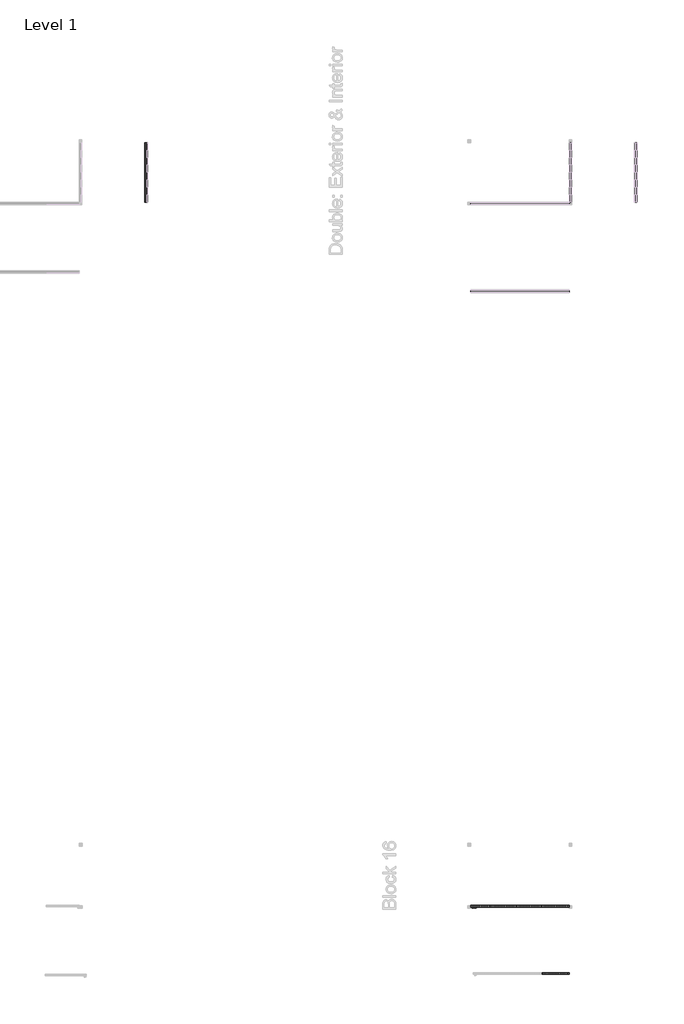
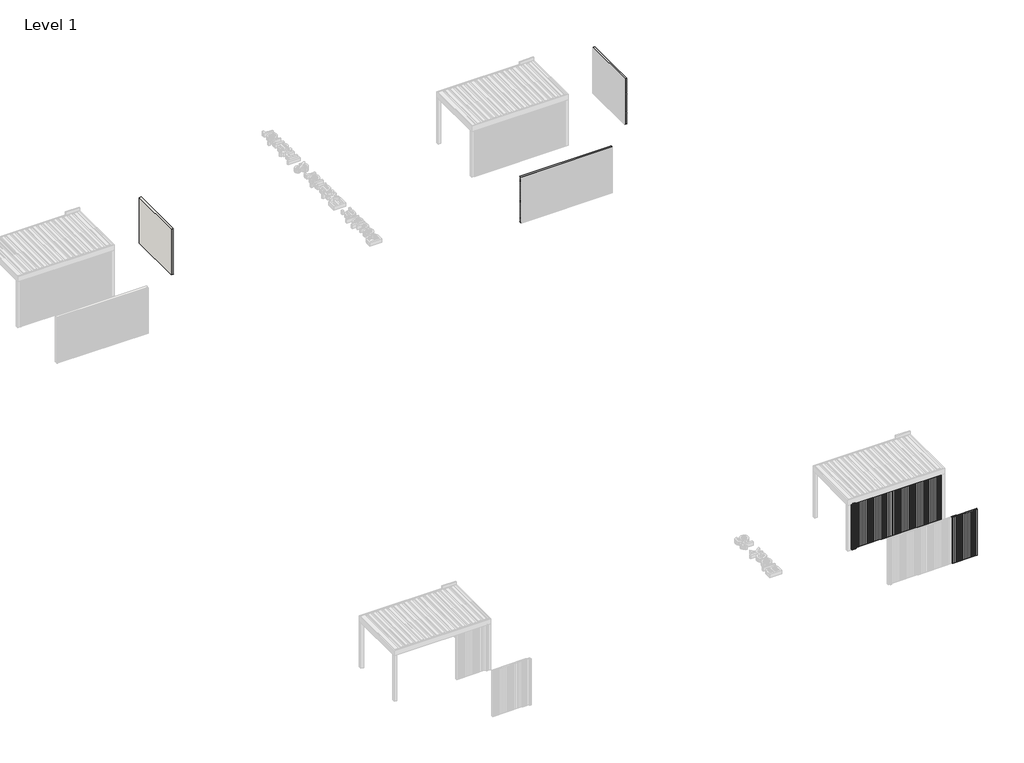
# One storey, part 3 of 47: 86 plates, 3 members, 1 wall.
"""IFC4 building model written with IfcOpenShell, lengths in millimetres."""

from ifc_helpers import new_model, si_unit, origin, origin_with_axes, place, context, project, spatial, polyline, outline, extrude, faceted_brep, transform, mapped, element, save
from components import rectangular_mullion_72b57f38

model = new_model("IFC4")

# Units and contexts
model_context = context("Model", 3, world=origin())
ifc_project = project(units=[si_unit("LENGTHUNIT", "METRE", prefix="MILLI")], contexts=[model_context])

# Site, building, storey
site = spatial("IfcSite", under=ifc_project)
building = spatial("IfcBuilding", under=site)
storey = spatial("IfcBuildingStorey", under=building, Name="Level 1", Elevation=0.0)

# Members
placement = place(None, origin())
rectangular_mullion_shape = rectangular_mullion_72b57f38(model_context)
element("IfcMember", 1, ObjectType="Rectangular Mullion : Renson_Linarte_LA-B16-01", at=placement, inside=storey, context=model_context, shape_type="MappedRepresentation", body=[
    mapped(rectangular_mullion_shape, transform((205462.4238388, 12603.7325968, 0.0), x_axis=(1.0, 0.0, 0.0), y_axis=(0.0, -1.0, 0.0), z_axis=(0.0, 0.0, -1.0))),
])
element("IfcMember", 2, ObjectType="Rectangular Mullion : Renson_Linarte_LA-B16-01", at=placement, inside=storey, context=model_context, shape_type="MappedRepresentation", body=[
    mapped(rectangular_mullion_shape, transform((205402.4238388, 12603.7325968, 0.0), x_axis=(1.0, 0.0, 0.0), y_axis=(0.0, -1.0, 0.0), z_axis=(0.0, 0.0, -1.0))),
])
element("IfcMember", 3, ObjectType="Rectangular Mullion : Renson_Linarte_LA-B16-01", at=placement, inside=storey, context=model_context, shape_type="MappedRepresentation", body=[
    mapped(rectangular_mullion_shape, transform((205342.4238388, 12603.7325968, 0.0), x_axis=(1.0, 0.0, 0.0), y_axis=(0.0, -1.0, 0.0), z_axis=(0.0, 0.0, -1.0))),
])

# Plates
element("IfcPlate", 4, ObjectType="Linius - L.033.01_Renson_double", at=placement, inside=storey, context=model_context, shape_type="Brep", body=[
    faceted_brep([(209062.4238385, 36245.4292826, 0.0), (205282.4238385, 36245.4292826, 0.0), (205282.4238385, 36245.4292826, 1951.0345698), (205282.4238385, 36245.4292826, 1964.7), (205282.4238385, 36245.4292826, 2000.0), (209062.4238385, 36245.4292826, 2000.0), (209062.4238385, 36245.4292826, 1964.7), (209062.4238385, 36245.4292826, 1951.0345698), (209062.4238385, 36178.2292826, 0.0), (209062.4238385, 36178.2292826, 2000.0), (205282.4238385, 36178.2292826, 2000.0), (205282.4238385, 36178.2292826, 0.0)], [[[0, 1, 2, 3, 4, 5, 6, 7]], [[8, 9, 10, 11]], [[1, 0, 8, 11]], [[4, 3, 2, 1, 11, 10]], [[5, 4, 10, 9]], [[0, 7, 6, 5, 9, 8]]]),
])
element("IfcPlate", 5, ObjectType="Linius - L.033.01_Renson_double", at=placement, inside=storey, context=model_context, shape_type="Brep", body=[
    faceted_brep([(211595.7971432, 41912.1593685, 0.0), (211595.7971432, 39632.1593685, 0.0), (211595.7971432, 39632.1593685, 1951.0345698), (211595.7971432, 39632.1593685, 1964.7), (211595.7971432, 39632.1593685, 2000.0), (211595.7971432, 41912.1593685, 2000.0), (211595.7971432, 41912.1593685, 1964.7), (211595.7971432, 41912.1593685, 1951.0345698), (211662.9971432, 41912.1593685, 0.0), (211662.9971432, 41912.1593685, 2000.0), (211662.9971432, 39632.1593685, 2000.0), (211662.9971432, 39632.1593685, 0.0)], [[[0, 1, 2, 3, 4, 5, 6, 7]], [[8, 9, 10, 11]], [[1, 0, 8, 11]], [[4, 3, 2, 1, 11, 10]], [[5, 4, 10, 9]], [[0, 7, 6, 5, 9, 8]]]),
])
element("IfcPlate", 6, ObjectType="Linius - L.033.01_Renson_double", at=placement, inside=storey, context=model_context, shape_type="Brep", body=[
    faceted_brep([(209083.8238385, 41912.1593685, 0.0), (209083.8238385, 39632.1593685, 0.0), (209083.8238385, 39632.1593685, 1951.0345698), (209083.8238385, 39632.1593685, 1964.7), (209083.8238385, 39632.1593685, 2000.0), (209083.8238385, 41912.1593685, 2000.0), (209083.8238385, 41912.1593685, 1964.7), (209083.8238385, 41912.1593685, 1951.0345698), (209151.0238385, 41912.1593685, 0.0), (209151.0238385, 41912.1593685, 2000.0), (209151.0238385, 39632.1593685, 2000.0), (209151.0238385, 39632.1593685, 0.0)], [[[0, 1, 2, 3, 4, 5, 6, 7]], [[8, 9, 10, 11]], [[1, 0, 8, 11]], [[4, 3, 2, 1, 11, 10]], [[5, 4, 10, 9]], [[0, 7, 6, 5, 9, 8]]]),
])
element("IfcPlate", 7, ObjectType="Linius - L.033.01_Renson_double", at=placement, inside=storey, context=model_context, shape_type="Brep", body=[
    faceted_brep([(209062.4238385, 39610.7593685, 0.0), (205282.4238385, 39610.7593685, 0.0), (205282.4238385, 39610.7593685, 1951.0345698), (205282.4238385, 39610.7593685, 1964.7), (205282.4238385, 39610.7593685, 2000.0), (209062.4238385, 39610.7593685, 2000.0), (209062.4238385, 39610.7593685, 1964.7), (209062.4238385, 39610.7593685, 1951.0345698), (209062.4238385, 39543.5593685, 0.0), (209062.4238385, 39543.5593685, 2000.0), (205282.4238385, 39543.5593685, 2000.0), (205282.4238385, 39543.5593685, 0.0)], [[[0, 1, 2, 3, 4, 5, 6, 7]], [[8, 9, 10, 11]], [[1, 0, 8, 11]], [[4, 3, 2, 1, 11, 10]], [[5, 4, 10, 9]], [[0, 7, 6, 5, 9, 8]]]),
])
element("IfcPlate", 8, ObjectType="Base - 64mm", at=placement, inside=storey, context=model_context, shape_type="SweptSolid", body=[
    extrude(outline(polyline([(209076.9839542, 9986.9412859), (209036.9839545, 9986.9412859), (209036.9839545, 10050.9412859), (209076.9839542, 10050.9412859), (209076.9839542, 9986.9412859)])), origin_with_axes(), (0.0, 0.0, 1.0), 2000.0),
])
element("IfcPlate", 9, ObjectType="Base - 64mm", at=placement, inside=storey, context=model_context, shape_type="SweptSolid", body=[
    extrude(outline(polyline([(209036.9839545, 9986.9412859), (208976.9839545, 9986.9412859), (208976.9839545, 10050.9412859), (209036.9839545, 10050.9412859), (209036.9839545, 9986.9412859)])), origin_with_axes(), (0.0, 0.0, 1.0), 2000.0),
])
element("IfcPlate", 10, ObjectType="Base - 64mm", at=placement, inside=storey, context=model_context, shape_type="SweptSolid", body=[
    extrude(outline(polyline([(208976.9839545, 9986.9412859), (208916.9839545, 9986.9412859), (208916.9839545, 10050.9412859), (208976.9839545, 10050.9412859), (208976.9839545, 9986.9412859)])), origin_with_axes(), (0.0, 0.0, 1.0), 2000.0),
])
element("IfcPlate", 11, ObjectType="Base - 64mm", at=placement, inside=storey, context=model_context, shape_type="SweptSolid", body=[
    extrude(outline(polyline([(208916.9839545, 9986.9412859), (208856.9839545, 9986.9412859), (208856.9839545, 10050.9412859), (208916.9839545, 10050.9412859), (208916.9839545, 9986.9412859)])), origin_with_axes(), (0.0, 0.0, 1.0), 2000.0),
])
element("IfcPlate", 12, ObjectType="Base - 64mm", at=placement, inside=storey, context=model_context, shape_type="SweptSolid", body=[
    extrude(outline(polyline([(208856.9839545, 9986.9412859), (208796.9839545, 9986.9412859), (208796.9839545, 10050.9412859), (208856.9839545, 10050.9412859), (208856.9839545, 9986.9412859)])), origin_with_axes(), (0.0, 0.0, 1.0), 2000.0),
])
element("IfcPlate", 13, ObjectType="Base - 64mm", at=placement, inside=storey, context=model_context, shape_type="SweptSolid", body=[
    extrude(outline(polyline([(208796.9839545, 9986.9412859), (208736.9839545, 9986.9412859), (208736.9839545, 10050.9412859), (208796.9839545, 10050.9412859), (208796.9839545, 9986.9412859)])), origin_with_axes(), (0.0, 0.0, 1.0), 2000.0),
])
element("IfcPlate", 14, ObjectType="Base - 64mm", at=placement, inside=storey, context=model_context, shape_type="SweptSolid", body=[
    extrude(outline(polyline([(208736.9839545, 9986.9412859), (208676.9839545, 9986.9412859), (208676.9839545, 10050.9412859), (208736.9839545, 10050.9412859), (208736.9839545, 9986.9412859)])), origin_with_axes(), (0.0, 0.0, 1.0), 2000.0),
])
element("IfcPlate", 15, ObjectType="Base - 64mm", at=placement, inside=storey, context=model_context, shape_type="SweptSolid", body=[
    extrude(outline(polyline([(208676.9839545, 9986.9412859), (208616.9839545, 9986.9412859), (208616.9839545, 10050.9412859), (208676.9839545, 10050.9412859), (208676.9839545, 9986.9412859)])), origin_with_axes(), (0.0, 0.0, 1.0), 2000.0),
])
element("IfcPlate", 16, ObjectType="Base - 64mm", at=placement, inside=storey, context=model_context, shape_type="SweptSolid", body=[
    extrude(outline(polyline([(208616.9839545, 9986.9412859), (208556.9839545, 9986.9412859), (208556.9839545, 10050.9412859), (208616.9839545, 10050.9412859), (208616.9839545, 9986.9412859)])), origin_with_axes(), (0.0, 0.0, 1.0), 2000.0),
])
element("IfcPlate", 17, ObjectType="Base - 64mm", at=placement, inside=storey, context=model_context, shape_type="SweptSolid", body=[
    extrude(outline(polyline([(208556.9839545, 9986.9412859), (208496.9839545, 9986.9412859), (208496.9839545, 10050.9412859), (208556.9839545, 10050.9412859), (208556.9839545, 9986.9412859)])), origin_with_axes(), (0.0, 0.0, 1.0), 2000.0),
])
element("IfcPlate", 18, ObjectType="Base - 64mm", at=placement, inside=storey, context=model_context, shape_type="SweptSolid", body=[
    extrude(outline(polyline([(208496.9839545, 9986.9412859), (208436.9839545, 9986.9412859), (208436.9839545, 10050.9412859), (208496.9839545, 10050.9412859), (208496.9839545, 9986.9412859)])), origin_with_axes(), (0.0, 0.0, 1.0), 2000.0),
])
element("IfcPlate", 19, ObjectType="Base - 64mm", at=placement, inside=storey, context=model_context, shape_type="SweptSolid", body=[
    extrude(outline(polyline([(208436.9839545, 9986.9412859), (208376.9839545, 9986.9412859), (208376.9839545, 10050.9412859), (208436.9839545, 10050.9412859), (208436.9839545, 9986.9412859)])), origin_with_axes(), (0.0, 0.0, 1.0), 2000.0),
])
element("IfcPlate", 20, ObjectType="Base - 64mm", at=placement, inside=storey, context=model_context, shape_type="SweptSolid", body=[
    extrude(outline(polyline([(208376.9839545, 9986.9412859), (208316.9839545, 9986.9412859), (208316.9839545, 10050.9412859), (208376.9839545, 10050.9412859), (208376.9839545, 9986.9412859)])), origin_with_axes(), (0.0, 0.0, 1.0), 2000.0),
])
element("IfcPlate", 21, ObjectType="Base - 64mm", at=placement, inside=storey, context=model_context, shape_type="SweptSolid", body=[
    extrude(outline(polyline([(208316.9839545, 9986.9412859), (208256.9839545, 9986.9412859), (208256.9839545, 10050.9412859), (208316.9839545, 10050.9412859), (208316.9839545, 9986.9412859)])), origin_with_axes(), (0.0, 0.0, 1.0), 2000.0),
])
element("IfcPlate", 22, ObjectType="Base - 64mm", at=placement, inside=storey, context=model_context, shape_type="SweptSolid", body=[
    extrude(outline(polyline([(208256.9839545, 9986.9412859), (208196.9839545, 9986.9412859), (208196.9839545, 10050.9412859), (208256.9839545, 10050.9412859), (208256.9839545, 9986.9412859)])), origin_with_axes(), (0.0, 0.0, 1.0), 2000.0),
])
element("IfcPlate", 23, ObjectType="Base - 64mm", at=placement, inside=storey, context=model_context, shape_type="SweptSolid", body=[
    extrude(outline(polyline([(208196.9839545, 9986.9412859), (208136.9839545, 9986.9412859), (208136.9839545, 10050.9412859), (208196.9839545, 10050.9412859), (208196.9839545, 9986.9412859)])), origin_with_axes(), (0.0, 0.0, 1.0), 2000.0),
])
element("IfcPlate", 24, ObjectType="Base - 64mm", at=placement, inside=storey, context=model_context, shape_type="SweptSolid", body=[
    extrude(outline(polyline([(208136.9839545, 9986.9412859), (208076.9839545, 9986.9412859), (208076.9839545, 10050.9412859), (208136.9839545, 10050.9412859), (208136.9839545, 9986.9412859)])), origin_with_axes(), (0.0, 0.0, 1.0), 2000.0),
])
element("IfcPlate", 25, ObjectType="Base - 64mm", at=placement, inside=storey, context=model_context, shape_type="SweptSolid", body=[
    extrude(outline(polyline([(208076.9839545, 9986.9412859), (208016.9839545, 9986.9412859), (208016.9839545, 10050.9412859), (208076.9839545, 10050.9412859), (208076.9839545, 9986.9412859)])), origin_with_axes(), (0.0, 0.0, 1.0), 2000.0),
])
element("IfcPlate", 26, ObjectType="Base - 64mm", at=placement, inside=storey, context=model_context, shape_type="SweptSolid", body=[
    extrude(outline(polyline([(209068.4238385, 12571.7325968), (209062.4238388, 12571.7325968), (209062.4238388, 12635.7325968), (209068.4238385, 12635.7325968), (209068.4238385, 12571.7325968)])), origin_with_axes(), (0.0, 0.0, 1.0), 2000.0),
])
element("IfcPlate", 27, ObjectType="Base - 64mm", at=placement, inside=storey, context=model_context, shape_type="SweptSolid", body=[
    extrude(outline(polyline([(209062.4238388, 12571.7325968), (209002.4238388, 12571.7325968), (209002.4238388, 12635.7325968), (209062.4238388, 12635.7325968), (209062.4238388, 12571.7325968)])), origin_with_axes(), (0.0, 0.0, 1.0), 2000.0),
])
element("IfcPlate", 28, ObjectType="Base - 64mm", at=placement, inside=storey, context=model_context, shape_type="SweptSolid", body=[
    extrude(outline(polyline([(209002.4238388, 12571.7325968), (208942.4238388, 12571.7325968), (208942.4238388, 12635.7325968), (209002.4238388, 12635.7325968), (209002.4238388, 12571.7325968)])), origin_with_axes(), (0.0, 0.0, 1.0), 2000.0),
])
element("IfcPlate", 29, ObjectType="Base - 64mm", at=placement, inside=storey, context=model_context, shape_type="SweptSolid", body=[
    extrude(outline(polyline([(208942.4238388, 12571.7325968), (208882.4238388, 12571.7325968), (208882.4238388, 12635.7325968), (208942.4238388, 12635.7325968), (208942.4238388, 12571.7325968)])), origin_with_axes(), (0.0, 0.0, 1.0), 2000.0),
])
element("IfcPlate", 30, ObjectType="Base - 64mm", at=placement, inside=storey, context=model_context, shape_type="SweptSolid", body=[
    extrude(outline(polyline([(208882.4238388, 12571.7325968), (208822.4238388, 12571.7325968), (208822.4238388, 12635.7325968), (208882.4238388, 12635.7325968), (208882.4238388, 12571.7325968)])), origin_with_axes(), (0.0, 0.0, 1.0), 2000.0),
])
element("IfcPlate", 31, ObjectType="Base - 64mm", at=placement, inside=storey, context=model_context, shape_type="SweptSolid", body=[
    extrude(outline(polyline([(208822.4238388, 12571.7325968), (208762.4238388, 12571.7325968), (208762.4238388, 12635.7325968), (208822.4238388, 12635.7325968), (208822.4238388, 12571.7325968)])), origin_with_axes(), (0.0, 0.0, 1.0), 2000.0),
])
element("IfcPlate", 32, ObjectType="Base - 64mm", at=placement, inside=storey, context=model_context, shape_type="SweptSolid", body=[
    extrude(outline(polyline([(208762.4238388, 12571.7325968), (208702.4238388, 12571.7325968), (208702.4238388, 12635.7325968), (208762.4238388, 12635.7325968), (208762.4238388, 12571.7325968)])), origin_with_axes(), (0.0, 0.0, 1.0), 2000.0),
])
element("IfcPlate", 33, ObjectType="Base - 64mm", at=placement, inside=storey, context=model_context, shape_type="SweptSolid", body=[
    extrude(outline(polyline([(208702.4238388, 12571.7325968), (208642.4238388, 12571.7325968), (208642.4238388, 12635.7325968), (208702.4238388, 12635.7325968), (208702.4238388, 12571.7325968)])), origin_with_axes(), (0.0, 0.0, 1.0), 2000.0),
])
element("IfcPlate", 34, ObjectType="Base - 64mm", at=placement, inside=storey, context=model_context, shape_type="SweptSolid", body=[
    extrude(outline(polyline([(208642.4238388, 12571.7325968), (208582.4238388, 12571.7325968), (208582.4238388, 12635.7325968), (208642.4238388, 12635.7325968), (208642.4238388, 12571.7325968)])), origin_with_axes(), (0.0, 0.0, 1.0), 2000.0),
])
element("IfcPlate", 35, ObjectType="Base - 64mm", at=placement, inside=storey, context=model_context, shape_type="SweptSolid", body=[
    extrude(outline(polyline([(208582.4238388, 12571.7325968), (208522.4238388, 12571.7325968), (208522.4238388, 12635.7325968), (208582.4238388, 12635.7325968), (208582.4238388, 12571.7325968)])), origin_with_axes(), (0.0, 0.0, 1.0), 2000.0),
])
element("IfcPlate", 36, ObjectType="Base - 64mm", at=placement, inside=storey, context=model_context, shape_type="SweptSolid", body=[
    extrude(outline(polyline([(208522.4238388, 12571.7325968), (208462.4238388, 12571.7325968), (208462.4238388, 12635.7325968), (208522.4238388, 12635.7325968), (208522.4238388, 12571.7325968)])), origin_with_axes(), (0.0, 0.0, 1.0), 2000.0),
])
element("IfcPlate", 37, ObjectType="Base - 64mm", at=placement, inside=storey, context=model_context, shape_type="SweptSolid", body=[
    extrude(outline(polyline([(208462.4238388, 12571.7325968), (208402.4238388, 12571.7325968), (208402.4238388, 12635.7325968), (208462.4238388, 12635.7325968), (208462.4238388, 12571.7325968)])), origin_with_axes(), (0.0, 0.0, 1.0), 2000.0),
])
element("IfcPlate", 38, ObjectType="Base - 64mm", at=placement, inside=storey, context=model_context, shape_type="SweptSolid", body=[
    extrude(outline(polyline([(208402.4238388, 12571.7325968), (208342.4238388, 12571.7325968), (208342.4238388, 12635.7325968), (208402.4238388, 12635.7325968), (208402.4238388, 12571.7325968)])), origin_with_axes(), (0.0, 0.0, 1.0), 2000.0),
])
element("IfcPlate", 39, ObjectType="Base - 64mm", at=placement, inside=storey, context=model_context, shape_type="SweptSolid", body=[
    extrude(outline(polyline([(208342.4238388, 12571.7325968), (208282.4238388, 12571.7325968), (208282.4238388, 12635.7325968), (208342.4238388, 12635.7325968), (208342.4238388, 12571.7325968)])), origin_with_axes(), (0.0, 0.0, 1.0), 2000.0),
])
element("IfcPlate", 40, ObjectType="Base - 64mm", at=placement, inside=storey, context=model_context, shape_type="SweptSolid", body=[
    extrude(outline(polyline([(208282.4238388, 12571.7325968), (208222.4238388, 12571.7325968), (208222.4238388, 12635.7325968), (208282.4238388, 12635.7325968), (208282.4238388, 12571.7325968)])), origin_with_axes(), (0.0, 0.0, 1.0), 2000.0),
])
element("IfcPlate", 41, ObjectType="Base - 64mm", at=placement, inside=storey, context=model_context, shape_type="SweptSolid", body=[
    extrude(outline(polyline([(208222.4238388, 12571.7325968), (208162.4238388, 12571.7325968), (208162.4238388, 12635.7325968), (208222.4238388, 12635.7325968), (208222.4238388, 12571.7325968)])), origin_with_axes(), (0.0, 0.0, 1.0), 2000.0),
])
element("IfcPlate", 42, ObjectType="Base - 64mm", at=placement, inside=storey, context=model_context, shape_type="SweptSolid", body=[
    extrude(outline(polyline([(208162.4238388, 12571.7325968), (208102.4238388, 12571.7325968), (208102.4238388, 12635.7325968), (208162.4238388, 12635.7325968), (208162.4238388, 12571.7325968)])), origin_with_axes(), (0.0, 0.0, 1.0), 2000.0),
])
element("IfcPlate", 43, ObjectType="Base - 64mm", at=placement, inside=storey, context=model_context, shape_type="SweptSolid", body=[
    extrude(outline(polyline([(208102.4238388, 12571.7325968), (208042.4238388, 12571.7325968), (208042.4238388, 12635.7325968), (208102.4238388, 12635.7325968), (208102.4238388, 12571.7325968)])), origin_with_axes(), (0.0, 0.0, 1.0), 2000.0),
])
element("IfcPlate", 44, ObjectType="Base - 64mm", at=placement, inside=storey, context=model_context, shape_type="SweptSolid", body=[
    extrude(outline(polyline([(208042.4238388, 12571.7325968), (207982.4238388, 12571.7325968), (207982.4238388, 12635.7325968), (208042.4238388, 12635.7325968), (208042.4238388, 12571.7325968)])), origin_with_axes(), (0.0, 0.0, 1.0), 2000.0),
])
element("IfcPlate", 45, ObjectType="Base - 64mm", at=placement, inside=storey, context=model_context, shape_type="SweptSolid", body=[
    extrude(outline(polyline([(207982.4238388, 12571.7325968), (207922.4238388, 12571.7325968), (207922.4238388, 12635.7325968), (207982.4238388, 12635.7325968), (207982.4238388, 12571.7325968)])), origin_with_axes(), (0.0, 0.0, 1.0), 2000.0),
])
element("IfcPlate", 46, ObjectType="Base - 64mm", at=placement, inside=storey, context=model_context, shape_type="SweptSolid", body=[
    extrude(outline(polyline([(207922.4238388, 12571.7325968), (207862.4238388, 12571.7325968), (207862.4238388, 12635.7325968), (207922.4238388, 12635.7325968), (207922.4238388, 12571.7325968)])), origin_with_axes(), (0.0, 0.0, 1.0), 2000.0),
])
element("IfcPlate", 47, ObjectType="Base - 64mm", at=placement, inside=storey, context=model_context, shape_type="SweptSolid", body=[
    extrude(outline(polyline([(207862.4238388, 12571.7325968), (207802.4238388, 12571.7325968), (207802.4238388, 12635.7325968), (207862.4238388, 12635.7325968), (207862.4238388, 12571.7325968)])), origin_with_axes(), (0.0, 0.0, 1.0), 2000.0),
])
element("IfcPlate", 48, ObjectType="Base - 64mm", at=placement, inside=storey, context=model_context, shape_type="SweptSolid", body=[
    extrude(outline(polyline([(207802.4238388, 12571.7325968), (207742.4238388, 12571.7325968), (207742.4238388, 12635.7325968), (207802.4238388, 12635.7325968), (207802.4238388, 12571.7325968)])), origin_with_axes(), (0.0, 0.0, 1.0), 2000.0),
])
element("IfcPlate", 49, ObjectType="Base - 64mm", at=placement, inside=storey, context=model_context, shape_type="SweptSolid", body=[
    extrude(outline(polyline([(207742.4238388, 12571.7325968), (207682.4238388, 12571.7325968), (207682.4238388, 12635.7325968), (207742.4238388, 12635.7325968), (207742.4238388, 12571.7325968)])), origin_with_axes(), (0.0, 0.0, 1.0), 2000.0),
])
element("IfcPlate", 50, ObjectType="Base - 64mm", at=placement, inside=storey, context=model_context, shape_type="SweptSolid", body=[
    extrude(outline(polyline([(207682.4238388, 12571.7325968), (207622.4238388, 12571.7325968), (207622.4238388, 12635.7325968), (207682.4238388, 12635.7325968), (207682.4238388, 12571.7325968)])), origin_with_axes(), (0.0, 0.0, 1.0), 2000.0),
])
element("IfcPlate", 51, ObjectType="Base - 64mm", at=placement, inside=storey, context=model_context, shape_type="SweptSolid", body=[
    extrude(outline(polyline([(207622.4238388, 12571.7325968), (207562.4238388, 12571.7325968), (207562.4238388, 12635.7325968), (207622.4238388, 12635.7325968), (207622.4238388, 12571.7325968)])), origin_with_axes(), (0.0, 0.0, 1.0), 2000.0),
])
element("IfcPlate", 52, ObjectType="Base - 64mm", at=placement, inside=storey, context=model_context, shape_type="SweptSolid", body=[
    extrude(outline(polyline([(207562.4238388, 12571.7325968), (207502.4238388, 12571.7325968), (207502.4238388, 12635.7325968), (207562.4238388, 12635.7325968), (207562.4238388, 12571.7325968)])), origin_with_axes(), (0.0, 0.0, 1.0), 2000.0),
])
element("IfcPlate", 53, ObjectType="Base - 64mm", at=placement, inside=storey, context=model_context, shape_type="SweptSolid", body=[
    extrude(outline(polyline([(207502.4238388, 12571.7325968), (207442.4238388, 12571.7325968), (207442.4238388, 12635.7325968), (207502.4238388, 12635.7325968), (207502.4238388, 12571.7325968)])), origin_with_axes(), (0.0, 0.0, 1.0), 2000.0),
])
element("IfcPlate", 54, ObjectType="Base - 64mm", at=placement, inside=storey, context=model_context, shape_type="SweptSolid", body=[
    extrude(outline(polyline([(207442.4238388, 12571.7325968), (207382.4238388, 12571.7325968), (207382.4238388, 12635.7325968), (207442.4238388, 12635.7325968), (207442.4238388, 12571.7325968)])), origin_with_axes(), (0.0, 0.0, 1.0), 2000.0),
])
element("IfcPlate", 55, ObjectType="Base - 64mm", at=placement, inside=storey, context=model_context, shape_type="SweptSolid", body=[
    extrude(outline(polyline([(207382.4238388, 12571.7325968), (207322.4238388, 12571.7325968), (207322.4238388, 12635.7325968), (207382.4238388, 12635.7325968), (207382.4238388, 12571.7325968)])), origin_with_axes(), (0.0, 0.0, 1.0), 2000.0),
])
element("IfcPlate", 56, ObjectType="Base - 64mm", at=placement, inside=storey, context=model_context, shape_type="SweptSolid", body=[
    extrude(outline(polyline([(207322.4238388, 12571.7325968), (207262.4238388, 12571.7325968), (207262.4238388, 12635.7325968), (207322.4238388, 12635.7325968), (207322.4238388, 12571.7325968)])), origin_with_axes(), (0.0, 0.0, 1.0), 2000.0),
])
element("IfcPlate", 57, ObjectType="Base - 64mm", at=placement, inside=storey, context=model_context, shape_type="SweptSolid", body=[
    extrude(outline(polyline([(207262.4238388, 12571.7325968), (207202.4238388, 12571.7325968), (207202.4238388, 12635.7325968), (207262.4238388, 12635.7325968), (207262.4238388, 12571.7325968)])), origin_with_axes(), (0.0, 0.0, 1.0), 2000.0),
])
element("IfcPlate", 58, ObjectType="Base - 64mm", at=placement, inside=storey, context=model_context, shape_type="SweptSolid", body=[
    extrude(outline(polyline([(207202.4238388, 12571.7325968), (207142.4238388, 12571.7325968), (207142.4238388, 12635.7325968), (207202.4238388, 12635.7325968), (207202.4238388, 12571.7325968)])), origin_with_axes(), (0.0, 0.0, 1.0), 2000.0),
])
element("IfcPlate", 59, ObjectType="Base - 64mm", at=placement, inside=storey, context=model_context, shape_type="SweptSolid", body=[
    extrude(outline(polyline([(207142.4238388, 12571.7325968), (207082.4238388, 12571.7325968), (207082.4238388, 12635.7325968), (207142.4238388, 12635.7325968), (207142.4238388, 12571.7325968)])), origin_with_axes(), (0.0, 0.0, 1.0), 2000.0),
])
element("IfcPlate", 60, ObjectType="Base - 64mm", at=placement, inside=storey, context=model_context, shape_type="SweptSolid", body=[
    extrude(outline(polyline([(207082.4238388, 12571.7325968), (207022.4238388, 12571.7325968), (207022.4238388, 12635.7325968), (207082.4238388, 12635.7325968), (207082.4238388, 12571.7325968)])), origin_with_axes(), (0.0, 0.0, 1.0), 2000.0),
])
element("IfcPlate", 61, ObjectType="Base - 64mm", at=placement, inside=storey, context=model_context, shape_type="SweptSolid", body=[
    extrude(outline(polyline([(207022.4238388, 12571.7325968), (206962.4238388, 12571.7325968), (206962.4238388, 12635.7325968), (207022.4238388, 12635.7325968), (207022.4238388, 12571.7325968)])), origin_with_axes(), (0.0, 0.0, 1.0), 2000.0),
])
element("IfcPlate", 62, ObjectType="Base - 64mm", at=placement, inside=storey, context=model_context, shape_type="SweptSolid", body=[
    extrude(outline(polyline([(206962.4238388, 12571.7325968), (206902.4238388, 12571.7325968), (206902.4238388, 12635.7325968), (206962.4238388, 12635.7325968), (206962.4238388, 12571.7325968)])), origin_with_axes(), (0.0, 0.0, 1.0), 2000.0),
])
element("IfcPlate", 63, ObjectType="Base - 64mm", at=placement, inside=storey, context=model_context, shape_type="SweptSolid", body=[
    extrude(outline(polyline([(206902.4238388, 12571.7325968), (206842.4238388, 12571.7325968), (206842.4238388, 12635.7325968), (206902.4238388, 12635.7325968), (206902.4238388, 12571.7325968)])), origin_with_axes(), (0.0, 0.0, 1.0), 2000.0),
])
element("IfcPlate", 64, ObjectType="Base - 64mm", at=placement, inside=storey, context=model_context, shape_type="SweptSolid", body=[
    extrude(outline(polyline([(206842.4238388, 12571.7325968), (206782.4238388, 12571.7325968), (206782.4238388, 12635.7325968), (206842.4238388, 12635.7325968), (206842.4238388, 12571.7325968)])), origin_with_axes(), (0.0, 0.0, 1.0), 2000.0),
])
element("IfcPlate", 65, ObjectType="Base - 64mm", at=placement, inside=storey, context=model_context, shape_type="SweptSolid", body=[
    extrude(outline(polyline([(206782.4238388, 12571.7325968), (206722.4238388, 12571.7325968), (206722.4238388, 12635.7325968), (206782.4238388, 12635.7325968), (206782.4238388, 12571.7325968)])), origin_with_axes(), (0.0, 0.0, 1.0), 2000.0),
])
element("IfcPlate", 66, ObjectType="Base - 64mm", at=placement, inside=storey, context=model_context, shape_type="SweptSolid", body=[
    extrude(outline(polyline([(206722.4238388, 12571.7325968), (206662.4238388, 12571.7325968), (206662.4238388, 12635.7325968), (206722.4238388, 12635.7325968), (206722.4238388, 12571.7325968)])), origin_with_axes(), (0.0, 0.0, 1.0), 2000.0),
])
element("IfcPlate", 67, ObjectType="Base - 64mm", at=placement, inside=storey, context=model_context, shape_type="SweptSolid", body=[
    extrude(outline(polyline([(206662.4238388, 12571.7325968), (206602.4238388, 12571.7325968), (206602.4238388, 12635.7325968), (206662.4238388, 12635.7325968), (206662.4238388, 12571.7325968)])), origin_with_axes(), (0.0, 0.0, 1.0), 2000.0),
])
element("IfcPlate", 68, ObjectType="Base - 64mm", at=placement, inside=storey, context=model_context, shape_type="SweptSolid", body=[
    extrude(outline(polyline([(206602.4238388, 12571.7325968), (206542.4238388, 12571.7325968), (206542.4238388, 12635.7325968), (206602.4238388, 12635.7325968), (206602.4238388, 12571.7325968)])), origin_with_axes(), (0.0, 0.0, 1.0), 2000.0),
])
element("IfcPlate", 69, ObjectType="Base - 64mm", at=placement, inside=storey, context=model_context, shape_type="SweptSolid", body=[
    extrude(outline(polyline([(206542.4238388, 12571.7325968), (206482.4238388, 12571.7325968), (206482.4238388, 12635.7325968), (206542.4238388, 12635.7325968), (206542.4238388, 12571.7325968)])), origin_with_axes(), (0.0, 0.0, 1.0), 2000.0),
])
element("IfcPlate", 70, ObjectType="Base - 64mm", at=placement, inside=storey, context=model_context, shape_type="SweptSolid", body=[
    extrude(outline(polyline([(206482.4238388, 12571.7325968), (206422.4238388, 12571.7325968), (206422.4238388, 12635.7325968), (206482.4238388, 12635.7325968), (206482.4238388, 12571.7325968)])), origin_with_axes(), (0.0, 0.0, 1.0), 2000.0),
])
element("IfcPlate", 71, ObjectType="Base - 64mm", at=placement, inside=storey, context=model_context, shape_type="SweptSolid", body=[
    extrude(outline(polyline([(206422.4238388, 12571.7325968), (206362.4238388, 12571.7325968), (206362.4238388, 12635.7325968), (206422.4238388, 12635.7325968), (206422.4238388, 12571.7325968)])), origin_with_axes(), (0.0, 0.0, 1.0), 2000.0),
])
element("IfcPlate", 72, ObjectType="Base - 64mm", at=placement, inside=storey, context=model_context, shape_type="SweptSolid", body=[
    extrude(outline(polyline([(206362.4238388, 12571.7325968), (206302.4238388, 12571.7325968), (206302.4238388, 12635.7325968), (206362.4238388, 12635.7325968), (206362.4238388, 12571.7325968)])), origin_with_axes(), (0.0, 0.0, 1.0), 2000.0),
])
element("IfcPlate", 73, ObjectType="Base - 64mm", at=placement, inside=storey, context=model_context, shape_type="SweptSolid", body=[
    extrude(outline(polyline([(206302.4238388, 12571.7325968), (206242.4238388, 12571.7325968), (206242.4238388, 12635.7325968), (206302.4238388, 12635.7325968), (206302.4238388, 12571.7325968)])), origin_with_axes(), (0.0, 0.0, 1.0), 2000.0),
])
element("IfcPlate", 74, ObjectType="Base - 64mm", at=placement, inside=storey, context=model_context, shape_type="SweptSolid", body=[
    extrude(outline(polyline([(206242.4238388, 12571.7325968), (206182.4238388, 12571.7325968), (206182.4238388, 12635.7325968), (206242.4238388, 12635.7325968), (206242.4238388, 12571.7325968)])), origin_with_axes(), (0.0, 0.0, 1.0), 2000.0),
])
element("IfcPlate", 75, ObjectType="Base - 64mm", at=placement, inside=storey, context=model_context, shape_type="SweptSolid", body=[
    extrude(outline(polyline([(206182.4238388, 12571.7325968), (206122.4238388, 12571.7325968), (206122.4238388, 12635.7325968), (206182.4238388, 12635.7325968), (206182.4238388, 12571.7325968)])), origin_with_axes(), (0.0, 0.0, 1.0), 2000.0),
])
element("IfcPlate", 76, ObjectType="Base - 64mm", at=placement, inside=storey, context=model_context, shape_type="SweptSolid", body=[
    extrude(outline(polyline([(206122.4238388, 12571.7325968), (206062.4238388, 12571.7325968), (206062.4238388, 12635.7325968), (206122.4238388, 12635.7325968), (206122.4238388, 12571.7325968)])), origin_with_axes(), (0.0, 0.0, 1.0), 2000.0),
])
element("IfcPlate", 77, ObjectType="Base - 64mm", at=placement, inside=storey, context=model_context, shape_type="SweptSolid", body=[
    extrude(outline(polyline([(206062.4238388, 12571.7325968), (206002.4238388, 12571.7325968), (206002.4238388, 12635.7325968), (206062.4238388, 12635.7325968), (206062.4238388, 12571.7325968)])), origin_with_axes(), (0.0, 0.0, 1.0), 2000.0),
])
element("IfcPlate", 78, ObjectType="Base - 64mm", at=placement, inside=storey, context=model_context, shape_type="SweptSolid", body=[
    extrude(outline(polyline([(206002.4238388, 12571.7325968), (205942.4238388, 12571.7325968), (205942.4238388, 12635.7325968), (206002.4238388, 12635.7325968), (206002.4238388, 12571.7325968)])), origin_with_axes(), (0.0, 0.0, 1.0), 2000.0),
])
element("IfcPlate", 79, ObjectType="Base - 64mm", at=placement, inside=storey, context=model_context, shape_type="SweptSolid", body=[
    extrude(outline(polyline([(205942.4238388, 12571.7325968), (205882.4238388, 12571.7325968), (205882.4238388, 12635.7325968), (205942.4238388, 12635.7325968), (205942.4238388, 12571.7325968)])), origin_with_axes(), (0.0, 0.0, 1.0), 2000.0),
])
element("IfcPlate", 80, ObjectType="Base - 64mm", at=placement, inside=storey, context=model_context, shape_type="SweptSolid", body=[
    extrude(outline(polyline([(205882.4238388, 12571.7325968), (205822.4238388, 12571.7325968), (205822.4238388, 12635.7325968), (205882.4238388, 12635.7325968), (205882.4238388, 12571.7325968)])), origin_with_axes(), (0.0, 0.0, 1.0), 2000.0),
])
element("IfcPlate", 81, ObjectType="Base - 64mm", at=placement, inside=storey, context=model_context, shape_type="SweptSolid", body=[
    extrude(outline(polyline([(205822.4238388, 12571.7325968), (205762.4238388, 12571.7325968), (205762.4238388, 12635.7325968), (205822.4238388, 12635.7325968), (205822.4238388, 12571.7325968)])), origin_with_axes(), (0.0, 0.0, 1.0), 2000.0),
])
element("IfcPlate", 82, ObjectType="Base - 64mm", at=placement, inside=storey, context=model_context, shape_type="SweptSolid", body=[
    extrude(outline(polyline([(205762.4238388, 12571.7325968), (205702.4238388, 12571.7325968), (205702.4238388, 12635.7325968), (205762.4238388, 12635.7325968), (205762.4238388, 12571.7325968)])), origin_with_axes(), (0.0, 0.0, 1.0), 2000.0),
])
element("IfcPlate", 83, ObjectType="Base - 64mm", at=placement, inside=storey, context=model_context, shape_type="SweptSolid", body=[
    extrude(outline(polyline([(205702.4238388, 12571.7325968), (205642.4238388, 12571.7325968), (205642.4238388, 12635.7325968), (205702.4238388, 12635.7325968), (205702.4238388, 12571.7325968)])), origin_with_axes(), (0.0, 0.0, 1.0), 2000.0),
])
element("IfcPlate", 84, ObjectType="Base - 64mm", at=placement, inside=storey, context=model_context, shape_type="SweptSolid", body=[
    extrude(outline(polyline([(205642.4238388, 12571.7325968), (205582.4238388, 12571.7325968), (205582.4238388, 12635.7325968), (205642.4238388, 12635.7325968), (205642.4238388, 12571.7325968)])), origin_with_axes(), (0.0, 0.0, 1.0), 2000.0),
])
element("IfcPlate", 85, ObjectType="Base - 64mm", at=placement, inside=storey, context=model_context, shape_type="SweptSolid", body=[
    extrude(outline(polyline([(205582.4238388, 12571.7325968), (205522.4238388, 12571.7325968), (205522.4238388, 12635.7325968), (205582.4238388, 12635.7325968), (205582.4238388, 12571.7325968)])), origin_with_axes(), (0.0, 0.0, 1.0), 2000.0),
])
element("IfcPlate", 86, ObjectType="Base - 64mm", at=placement, inside=storey, context=model_context, shape_type="SweptSolid", body=[
    extrude(outline(polyline([(205522.4238388, 12571.7325968), (205462.4238388, 12571.7325968), (205462.4238388, 12635.7325968), (205522.4238388, 12635.7325968), (205522.4238388, 12571.7325968)])), origin_with_axes(), (0.0, 0.0, 1.0), 2000.0),
])
element("IfcPlate", 87, ObjectType="Base - 64mm", at=placement, inside=storey, context=model_context, shape_type="SweptSolid", body=[
    extrude(outline(polyline([(205462.4238388, 12571.7325968), (205402.4238388, 12571.7325968), (205402.4238388, 12635.7325968), (205462.4238388, 12635.7325968), (205462.4238388, 12571.7325968)])), origin_with_axes(), (0.0, 0.0, 1.0), 2000.0),
])
element("IfcPlate", 88, ObjectType="Base - 64mm", at=placement, inside=storey, context=model_context, shape_type="SweptSolid", body=[
    extrude(outline(polyline([(205402.4238388, 12571.7325968), (205342.4238388, 12571.7325968), (205342.4238388, 12635.7325968), (205402.4238388, 12635.7325968), (205402.4238388, 12571.7325968)])), origin_with_axes(), (0.0, 0.0, 1.0), 2000.0),
])
element("IfcPlate", 89, ObjectType="Base - 64mm", at=placement, inside=storey, context=model_context, shape_type="SweptSolid", body=[
    extrude(outline(polyline([(205342.4238388, 12571.7325968), (205282.4238385, 12571.7325968), (205282.4238385, 12635.7325968), (205342.4238388, 12635.7325968), (205342.4238388, 12571.7325968)])), origin_with_axes(), (0.0, 0.0, 1.0), 2000.0),
])

# Wall
element("IfcWall", 90, ObjectType="Linius - L.033.01_renson_single", at=placement, inside=storey, context=model_context, shape_type="SweptSolid", body=[
    extrude(outline(polyline([(192871.0238385, 41912.1593685), (192871.0238385, 39632.1593685), (192782.4238385, 39632.1593685), (192782.4238385, 41912.1593685), (192871.0238385, 41912.1593685)])), origin_with_axes(), (0.0, 0.0, 1.0), 2000.0),
])

save(model, "model.ifc")
